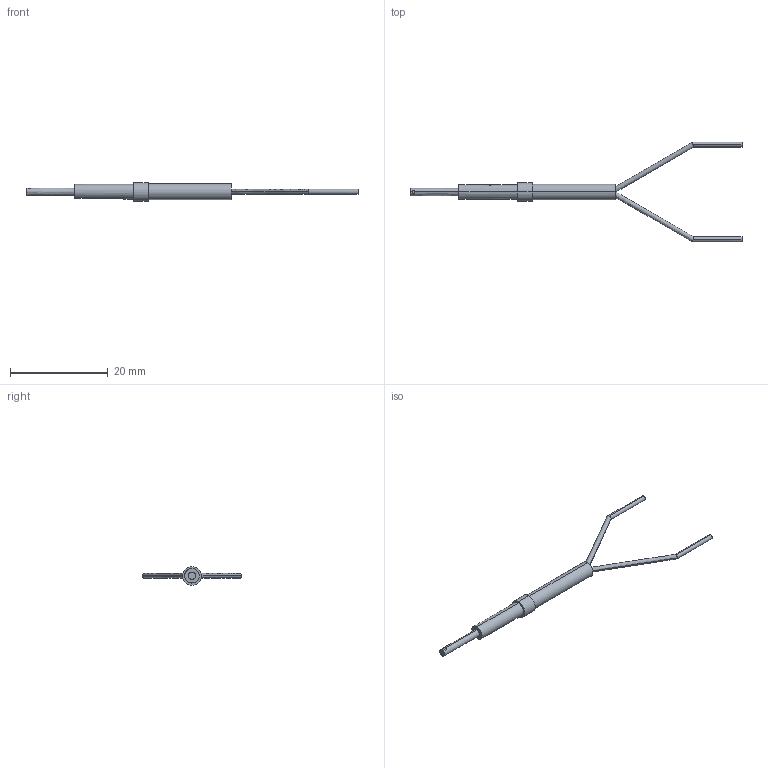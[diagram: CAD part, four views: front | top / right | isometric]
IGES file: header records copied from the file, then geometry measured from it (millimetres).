
Start section: SolidWorks IGES FILE using analytic representation for surfaces
Global section: file name: C:\Documents and Settings\yk0651\デスクトップ\3D_catalog_050904\0_IGES\FD-V41.IGS; native system: SolidWorks 2004 by SolidWorks Corporation; preprocessor: Version 5.3; author: yk0651; date: 050904.192313; units: millimetre
Bounding box: 67.92 x 20.39 x 3.8 mm (x, y, z)
Volume: 329.1 mm3; surface area: 622.2 mm2
Topology: 2 solids, 2 shells, 33 faces, 74 edges, 49 vertices
Faces by surface type: revolution 20, plane 13
